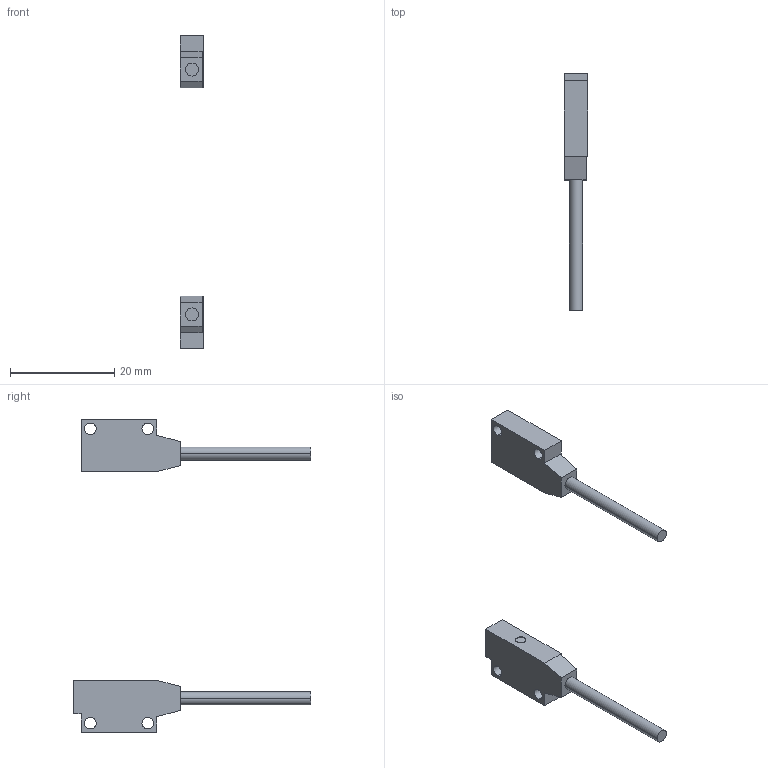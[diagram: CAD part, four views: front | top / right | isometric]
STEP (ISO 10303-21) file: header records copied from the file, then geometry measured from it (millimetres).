
FILE_DESCRIPTION (( 'STEP AP203' ), '1' );
FILE_NAME ('EX-11EA.STEP', '2005-09-05T07:13:23', ( '川島良英' ), ( ' ' ), 'SwSTEP 2.0', 'SolidWorks 2004251', '' );
FILE_SCHEMA (( 'CONFIG_CONTROL_DESIGN' ));
Length unit declared in the file: millimetre
Products named in the file (3): EX-11EAD_蹬怮椔; EX-11EAP_蹬怮椔; EX-11EA
Assembly tree (2 placements, depth 2):
  EX-11EA
    EX-11EAP_蹬怮椔
    EX-11EAD_蹬怮椔
Bounding box: 4.5 x 45.5 x 60 mm (x, y, z)
Volume: 1742.9 mm3; surface area: 1705.9 mm2
Topology: 2 solids, 2 shells, 52 faces, 124 edges, 82 vertices
Faces by surface type: plane 36, cylinder 16
Entity records: 1825 total; most frequent: DIRECTION 270, CARTESIAN_POINT 263, ORIENTED_EDGE 248, EDGE_CURVE 124, VECTOR 92, LINE 92, AXIS2_PLACEMENT_3D 89, VERTEX_POINT 82
